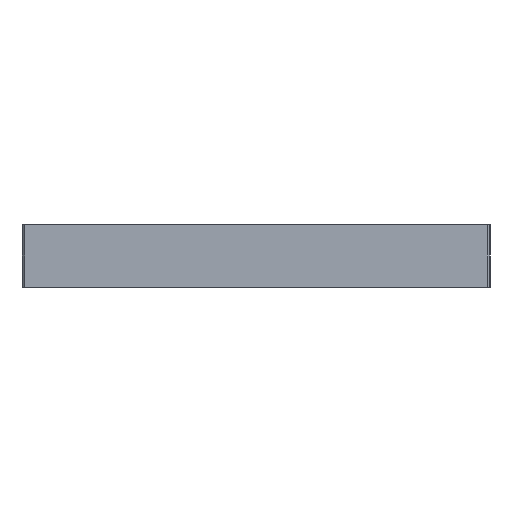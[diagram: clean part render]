
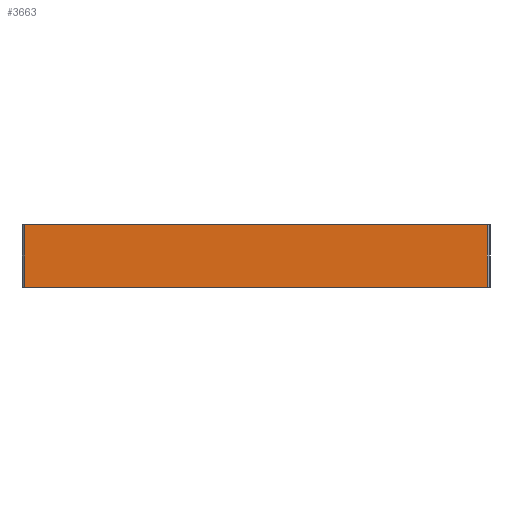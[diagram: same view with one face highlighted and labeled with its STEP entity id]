
A CAD part, left-side view. The second image highlights one B-rep face of the part: STEP entity #3663.
In plain terms, the highlighted planar face has unit normal (-1, 0, 0).
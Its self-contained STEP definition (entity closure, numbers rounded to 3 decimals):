
#523=FACE_OUTER_BOUND('',#738,.T.);
#738=EDGE_LOOP('',(#3261,#3262,#3263,#3264));
#1045=LINE('',#6590,#1374);
#1052=LINE('',#6614,#1381);
#1054=LINE('',#6618,#1383);
#1055=LINE('',#6619,#1384);
#1374=VECTOR('',#4245,10.);
#1381=VECTOR('',#4268,10.);
#1383=VECTOR('',#4272,10.);
#1384=VECTOR('',#4273,10.);
#1739=VERTEX_POINT('',#6586);
#1741=VERTEX_POINT('',#6589);
#1750=VERTEX_POINT('',#6612);
#1751=VERTEX_POINT('',#6617);
#2253=EDGE_CURVE('',#1741,#1739,#1045,.T.);
#2263=EDGE_CURVE('',#1750,#1739,#1052,.T.);
#2265=EDGE_CURVE('',#1750,#1751,#1054,.T.);
#2266=EDGE_CURVE('',#1741,#1751,#1055,.T.);
#3261=ORIENTED_EDGE('',*,*,#2263,.F.);
#3262=ORIENTED_EDGE('',*,*,#2265,.T.);
#3263=ORIENTED_EDGE('',*,*,#2266,.F.);
#3264=ORIENTED_EDGE('',*,*,#2253,.T.);
#3473=PLANE('',#3789);
#3663=ADVANCED_FACE('',(#523),#3473,.T.);
#3789=AXIS2_PLACEMENT_3D('',#6616,#4270,#4271);
#4245=DIRECTION('',(0.,-1.,0.));
#4268=DIRECTION('',(0.,0.,-1.));
#4270=DIRECTION('center_axis',(-1.,0.,0.));
#4271=DIRECTION('ref_axis',(0.,0.,1.));
#4272=DIRECTION('',(0.,1.,0.));
#4273=DIRECTION('',(0.,0.,1.));
#6586=CARTESIAN_POINT('',(-74.041,-41.317,0.));
#6589=CARTESIAN_POINT('',(-74.041,47.683,0.));
#6590=CARTESIAN_POINT('',(-74.041,48.183,0.));
#6612=CARTESIAN_POINT('',(-74.041,-41.317,12.));
#6614=CARTESIAN_POINT('',(-74.041,-41.317,0.));
#6616=CARTESIAN_POINT('Origin',(-74.041,-41.817,0.));
#6617=CARTESIAN_POINT('',(-74.041,47.683,12.));
#6618=CARTESIAN_POINT('',(-74.041,48.183,12.));
#6619=CARTESIAN_POINT('',(-74.041,47.683,0.));
